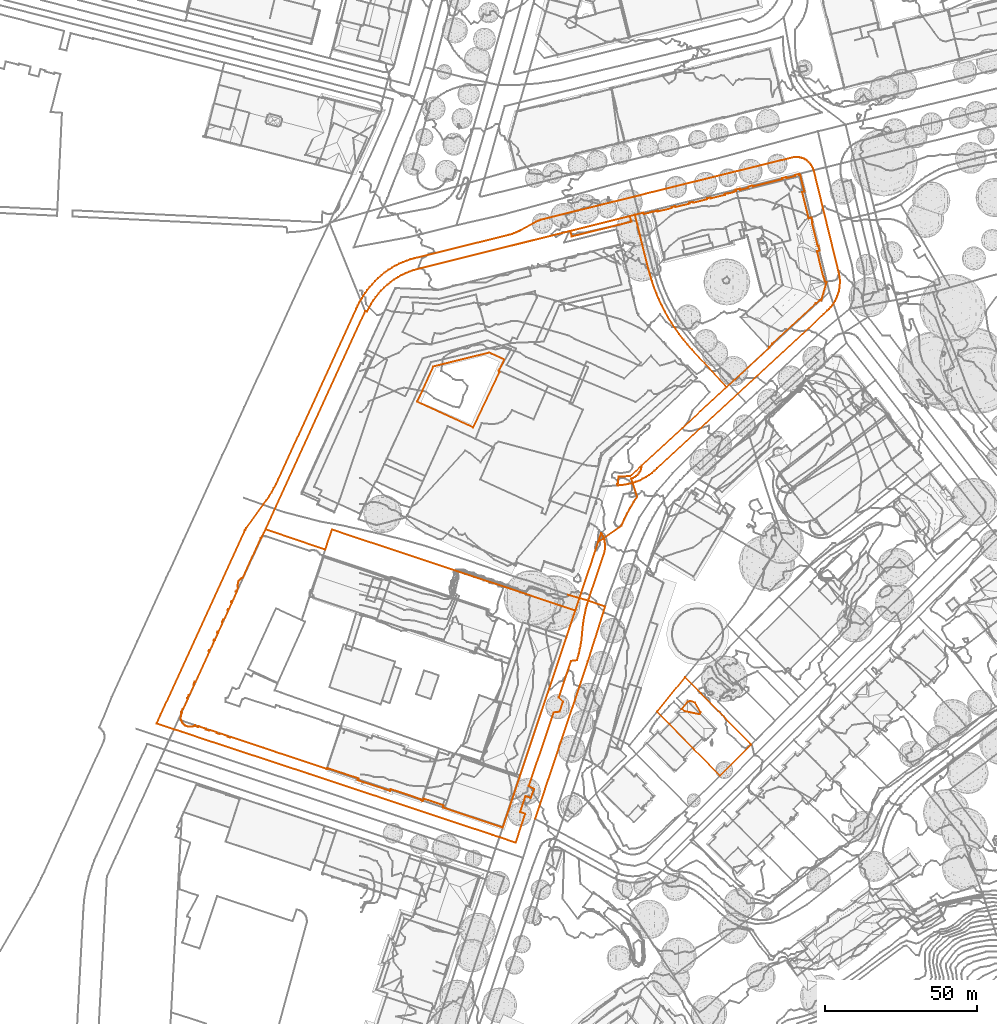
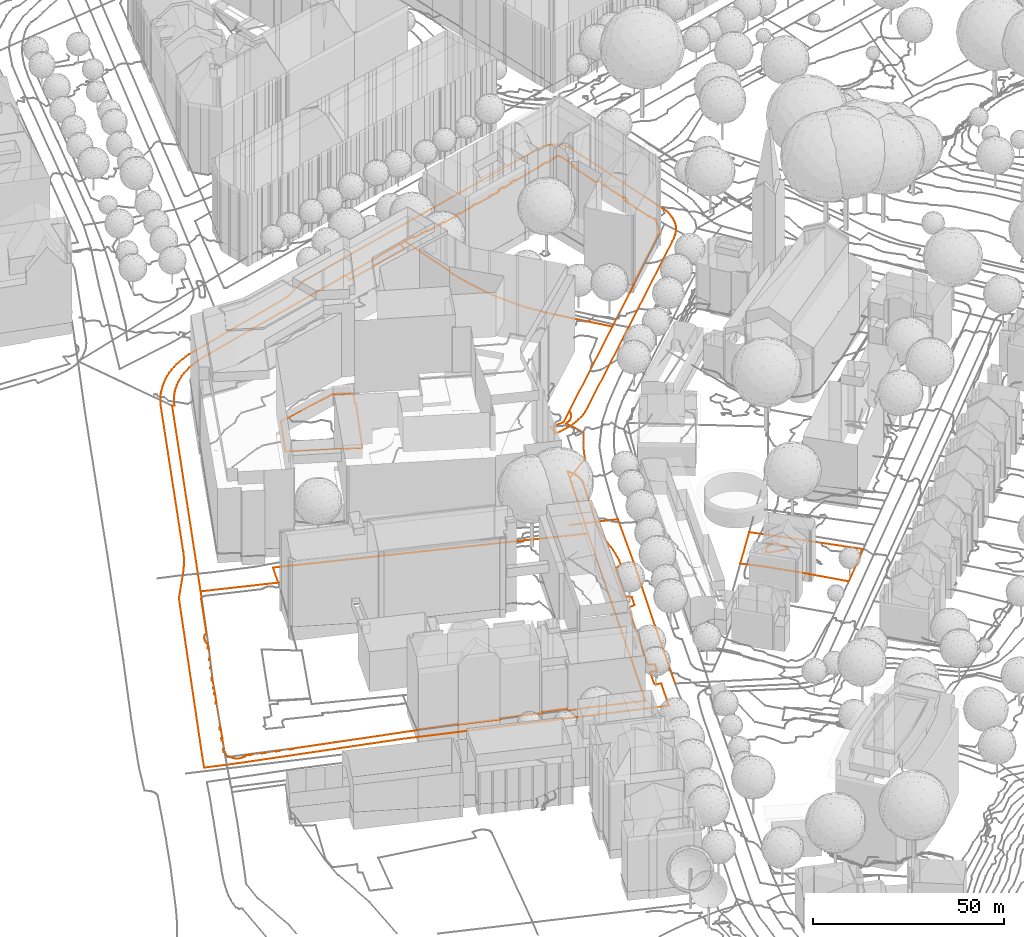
# Not in any storey, part 99 of 494: 7 proxies.
"""IFC2X3 model written with IfcOpenShell, lengths in metres."""

from ifc_helpers import new_model, entity, si_unit, frame, origin_with_axes, place, context, subcontext, project, element, save


model = new_model("IFC2X3")

# Units and contexts
model_context = context("Model", 3, precision=1e-05, world=origin_with_axes())
body_context = subcontext(model_context, "Body", "Model", "MODEL_VIEW")
ifc_project = project(units=[si_unit("AREAUNIT", "SQUARE_METRE"), si_unit("LENGTHUNIT", "METRE")], contexts=[model_context])

# Proxies
proxy_1_placement = place(None, frame((56.6267320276, 114.0017396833, 529.789), z_axis=(0.0, 0.0, 1.0), x_axis=(1.0, 0.0, 0.0)))
element("IfcBuildingElementProxy", 1, at=proxy_1_placement, Name="Road 81", ObjectType="NOTDEFINED", context=body_context, shape_type="GeometricCurveSet", body=[
    entity("IfcGeometricCurveSet", [entity("IfcPolyline", [entity("IfcCartesianPoint", [0.0, 0.0, 0.0]), entity("IfcCartesianPoint", [8.3699999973, 25.111999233, 0.407]), entity("IfcCartesianPoint", [17.3269999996, 51.6899984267, 1.305]), entity("IfcCartesianPoint", [22.9800000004, 69.7789978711, 2.135])])]),
])
proxy_2_placement = place(None, frame((67.1447320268, 187.6957374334, 532.061), z_axis=(0.0, 0.0, 1.0), x_axis=(1.0, 0.0, 0.0)))
element("IfcBuildingElementProxy", 2, at=proxy_2_placement, Name="Road 85", ObjectType="NOTDEFINED", context=body_context, shape_type="GeometricCurveSet", body=[
    entity("IfcGeometricCurveSet", [entity("IfcPolyline", [entity("IfcCartesianPoint", [0.0, 0.0, 0.0]), entity("IfcCartesianPoint", [6.8790000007, -1.9849999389, -0.152]), entity("IfcCartesianPoint", [12.4620000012, -3.914999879, -0.137])])]),
])
proxy_3_placement = place(None, frame((17.8997320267, 251.0267160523, 534.4437292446), z_axis=(0.0, 0.0, 1.0), x_axis=(1.0, 0.0, 0.0)))
element("IfcBuildingElementProxy", 3, at=proxy_3_placement, Name="Roads Outline 9", ObjectType="NOTDEFINED", context=body_context, shape_type="GeometricCurveSet", body=[
    entity("IfcGeometricCurveSet", [entity("IfcPolyline", [entity("IfcCartesianPoint", [0.0, 0.0, 0.0]), entity("IfcCartesianPoint", [5.2969999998, 11.594, 0.8061418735]), entity("IfcCartesianPoint", [23.5970000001, 16.155, 0.3098576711]), entity("IfcCartesianPoint", [28.594, 13.9060000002, 0.2033725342]), entity("IfcCartesianPoint", [27.125, 10.7010000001, -0.0943390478]), entity("IfcCartesianPoint", [27.0159999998, 10.7510000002, -0.0916174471]), entity("IfcCartesianPoint", [26.7659999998, 10.206, -0.110626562]), entity("IfcCartesianPoint", [26.9199999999, 10.135, -0.1106286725]), entity("IfcCartesianPoint", [26.9700000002, 10.0020000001, -0.1123598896]), entity("IfcCartesianPoint", [26.9500000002, 9.959, -0.1129406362]), entity("IfcCartesianPoint", [26.8999999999, 9.848, -0.1141976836]), entity("IfcCartesianPoint", [27.0150000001, 9.7950000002, -0.1156570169]), entity("IfcCartesianPoint", [18.3700000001, -8.3909999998, -0.1647673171]), entity("IfcCartesianPoint", [0.0, 0.0, 0.0])])]),
])
proxy_4_placement = place(None, frame((-67.6912679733, 145.3517160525, 527.4249481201), z_axis=(0.0, 0.0, 1.0), x_axis=(1.0, 0.0, 0.0)))
element("IfcBuildingElementProxy", 4, at=proxy_4_placement, Name="Roads Outline 10", ObjectType="NOTDEFINED", context=body_context, shape_type="GeometricCurveSet", body=[
    entity("IfcGeometricCurveSet", [entity("IfcPolyline", [entity("IfcCartesianPoint", [0.0, 0.0, 0.0]), entity("IfcCartesianPoint", [1.3199999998, 2.888, -0.2080340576]), entity("IfcCartesianPoint", [28.98, 63.314, 5.1346878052]), entity("IfcCartesianPoint", [29.0800000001, 63.547, 5.1362996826]), entity("IfcCartesianPoint", [29.1919999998, 63.7749999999, 5.1377330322]), entity("IfcCartesianPoint", [29.4440000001, 64.203, 5.1404237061]), entity("IfcCartesianPoint", [35.1090000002, 72.057, 5.4727700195]), entity("IfcCartesianPoint", [36.0279999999, 73.3149999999, 5.8187476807]), entity("IfcCartesianPoint", [36.9020000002, 74.605, 5.9544064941]), entity("IfcCartesianPoint", [37.7280000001, 75.926, 6.0923600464]), entity("IfcCartesianPoint", [38.5120000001, 77.287, 6.2344908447]), entity("IfcCartesianPoint", [39.2459999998, 78.676, 6.3505656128]), entity("IfcCartesianPoint", [39.9300000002, 80.0899999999, 6.4019411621]), entity("IfcCartesianPoint", [65.6069999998, 136.2489999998, 9.4472509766]), entity("IfcCartesianPoint", [66.0660000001, 137.237, 9.4255495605]), entity("IfcCartesianPoint", [66.5610000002, 138.209, 9.4437701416]), entity("IfcCartesianPoint", [67.091, 139.1609999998, 9.5007259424]), entity("IfcCartesianPoint", [67.466, 139.798, 9.5336197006]), entity("IfcCartesianPoint", [67.8560000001, 140.4249999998, 9.5609431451]), entity("IfcCartesianPoint", [68.5189999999, 141.4179999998, 9.6235914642]), entity("IfcCartesianPoint", [69.2209999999, 142.3829999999, 9.6727223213]), entity("IfcCartesianPoint", [69.9619999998, 143.3189999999, 9.758619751]), entity("IfcCartesianPoint", [70.7400000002, 144.2239999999, 9.8162144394]), entity("IfcCartesianPoint", [71.7170000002, 145.298, 9.9165192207]), entity("IfcCartesianPoint", [72.75, 146.3189999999, 10.0064893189]), entity("IfcCartesianPoint", [73.8360000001, 147.2819999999, 10.0571101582]), entity("IfcCartesianPoint", [74.9730000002, 148.1849999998, 10.1214653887]), entity("IfcCartesianPoint", [76.1570000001, 149.0259999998, 10.1744799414]), entity("IfcCartesianPoint", [77.304, 149.754, 10.2184897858]), entity("IfcCartesianPoint", [78.486, 150.422, 10.2771569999]), entity("IfcCartesianPoint", [79.7000000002, 151.031, 10.3132679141]), entity("IfcCartesianPoint", [80.9440000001, 151.5769999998, 10.3484464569]), entity("IfcCartesianPoint", [82.213, 152.0599999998, 10.4020685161]), entity("IfcCartesianPoint", [83.5049999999, 152.4789999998, 10.4397841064]), entity("IfcCartesianPoint", [84.8169999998, 152.8319999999, 10.4890566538]), entity("IfcCartesianPoint", [115.949, 160.568, 11.2608643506]), entity("IfcCartesianPoint", [116.7119999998, 160.7929999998, 11.282352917]), entity("IfcCartesianPoint", [117.463, 161.0519999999, 11.298443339]), entity("IfcCartesianPoint", [118.202, 161.3459999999, 11.3005697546]), entity("IfcCartesianPoint", [118.9300000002, 161.6749999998, 11.2897838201]), entity("IfcCartesianPoint", [119.642, 162.0359999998, 11.3221643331]), entity("IfcCartesianPoint", [123.8250000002, 164.3729999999, 11.4012335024]), entity("IfcCartesianPoint", [124.6129999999, 164.7999999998, 11.4377898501]), entity("IfcCartesianPoint", [125.4300000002, 165.166, 11.4407610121]), entity("IfcCartesianPoint", [126.3080000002, 165.4819999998, 11.4255050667]), entity("IfcCartesianPoint", [127.2080000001, 165.7279999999, 11.4200615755]), entity("IfcCartesianPoint", [157.0869999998, 173.125, 11.7847085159]), entity("IfcCartesianPoint", [208.7059999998, 185.906, 12.2898109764]), entity("IfcCartesianPoint", [209.3569999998, 186.027, 12.2816119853]), entity("IfcCartesianPoint", [210.017, 186.075, 12.2716592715]), entity("IfcCartesianPoint", [210.679, 186.0499999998, 12.2661109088]), entity("IfcCartesianPoint", [211.3339999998, 185.95, 12.2622229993]), entity("IfcCartesianPoint", [211.9730000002, 185.7779999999, 12.2609329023]), entity("IfcCartesianPoint", [212.5890000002, 185.5359999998, 12.2643888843]), entity("IfcCartesianPoint", [213.1749999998, 185.227, 12.2388592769]), entity("IfcCartesianPoint", [213.7089999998, 184.8639999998, 12.2177686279]), entity("IfcCartesianPoint", [214.2000000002, 184.4449999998, 12.2110118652]), entity("IfcCartesianPoint", [214.6430000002, 183.9749999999, 12.1675744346]), entity("IfcCartesianPoint", [215.0320000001, 183.46, 12.1370057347]), entity("IfcCartesianPoint", [215.3629999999, 182.906, 12.1216642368]), entity("IfcCartesianPoint", [215.6310000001, 182.3189999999, 12.0964372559]), entity("IfcCartesianPoint", [215.835, 181.706, 12.0427866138]), entity("IfcCartesianPoint", [224.0249999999, 148.2609999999, 10.5233550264]), entity("IfcCartesianPoint", [224.2149999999, 147.392, 10.5306896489]), entity("IfcCartesianPoint", [224.3450000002, 146.513, 10.5014225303]), entity("IfcCartesianPoint", [224.4139999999, 145.6259999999, 10.4770400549]), entity("IfcCartesianPoint", [224.4219999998, 144.737, 10.4468352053]), entity("IfcCartesianPoint", [224.3689999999, 143.8489999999, 10.4012084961]), entity("IfcCartesianPoint", [224.2549999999, 142.9669999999, 10.3453725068]), entity("IfcCartesianPoint", [224.0809999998, 142.095, 10.3045546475]), entity("IfcCartesianPoint", [223.841, 141.2219999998, 10.2810139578]), entity("IfcCartesianPoint", [223.5410000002, 140.3669999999, 10.2483413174]), entity("IfcCartesianPoint", [223.182, 139.5349999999, 10.1858411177]), entity("IfcCartesianPoint", [222.7659999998, 138.7309999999, 10.1429102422]), entity("IfcCartesianPoint", [222.2940000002, 137.9579999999, 10.0963570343]), entity("IfcCartesianPoint", [221.8450000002, 137.3199999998, 10.070381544]), entity("IfcCartesianPoint", [221.3569999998, 136.709, 10.0314658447]), entity("IfcCartesianPoint", [220.8339999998, 136.1299999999, 9.9862237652]), entity("IfcCartesianPoint", [220.2770000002, 135.5829999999, 9.9456068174]), entity("IfcCartesianPoint", [219.1400000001, 134.504, 9.8586848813]), entity("IfcCartesianPoint", [164.4470000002, 83.9139999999, 6.8842999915]), entity("IfcCartesianPoint", [163.5800000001, 83.101, 6.8217709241]), entity("IfcCartesianPoint", [162.6669999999, 82.341, 6.7952735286]), entity("IfcCartesianPoint", [161.71, 81.6369999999, 6.774864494]), entity("IfcCartesianPoint", [160.7119999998, 80.9909999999, 6.7314496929]), entity("IfcCartesianPoint", [159.6779999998, 80.406, 6.6890435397]), entity("IfcCartesianPoint", [158.611, 79.8839999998, 6.6683142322]), entity("IfcCartesianPoint", [157.5150000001, 79.426, 6.6583448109]), entity("IfcCartesianPoint", [156.3930000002, 79.034, 6.6084774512]), entity("IfcCartesianPoint", [155.1949999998, 78.7449999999, 6.5510893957]), entity("IfcCartesianPoint", [153.9849999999, 78.513, 6.5144450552]), entity("IfcCartesianPoint", [152.7650000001, 78.3369999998, 6.4355364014]), entity("IfcCartesianPoint", [151.5380000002, 78.219, 6.4139226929]), entity("IfcCartesianPoint", [151.4610000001, 78.2139999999, 6.4141913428]), entity("IfcCartesianPoint", [151.3849999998, 78.2079999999, 6.414349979]), entity("IfcCartesianPoint", [151.3450000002, 78.2049999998, 6.414423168]), entity("IfcCartesianPoint", [151.3100000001, 78.652, 6.4229099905]), entity("IfcCartesianPoint", [151.4419999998, 78.7949999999, 6.4209424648]), entity("IfcCartesianPoint", [151.5279999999, 78.97, 6.4194706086]), entity("IfcCartesianPoint", [151.5600000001, 79.162, 6.418835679]), entity("IfcCartesianPoint", [151.7000000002, 81.1309999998, 6.5857669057]), entity("IfcCartesianPoint", [155.5440000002, 81.2339999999, 6.6736287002]), entity("IfcCartesianPoint", [159.3330000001, 84.7559999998, 6.9124994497]), entity("IfcCartesianPoint", [187.2349999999, 110.541, 8.3438452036]), entity("IfcCartesianPoint", [189.46, 112.5959999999, 8.520529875]), entity("IfcCartesianPoint", [201.2590000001, 123.503, 9.1507131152]), entity("IfcCartesianPoint", [201.122, 123.652, 9.160181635]), entity("IfcCartesianPoint", [202.25, 124.6869999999, 9.2265585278]), entity("IfcCartesianPoint", [202.182, 124.76, 9.2310877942]), entity("IfcCartesianPoint", [216.514, 138.044, 10.0416054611]), entity("IfcCartesianPoint", [216.5819999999, 137.9709999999, 10.0351867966]), entity("IfcCartesianPoint", [217.7179999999, 139.0209999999, 10.0988297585]), entity("IfcCartesianPoint", [217.9670000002, 138.9469999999, 10.0947136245]), entity("IfcCartesianPoint", [218.2370000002, 138.8669999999, 10.1007628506]), entity("IfcCartesianPoint", [218.3709999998, 139.3199999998, 10.1315998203]), entity("IfcCartesianPoint", [220.0389999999, 144.963, 10.5338691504]), entity("IfcCartesianPoint", [219.4870000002, 145.2079999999, 10.562672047]), entity("IfcCartesianPoint", [219.142, 146.5869999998, 10.6485200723]), entity("IfcCartesianPoint", [219.0249999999, 146.5559999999, 10.6520296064]), entity("IfcCartesianPoint", [216.9070000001, 155.129, 11.0879605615]), entity("IfcCartesianPoint", [217.673, 155.318, 11.058412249]), entity("IfcCartesianPoint", [217.77, 155.3419999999, 11.0544535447]), entity("IfcCartesianPoint", [217.3849999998, 156.9039999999, 11.1443709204]), entity("IfcCartesianPoint", [217.2880000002, 156.8799999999, 11.1445516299]), entity("IfcCartesianPoint", [217.1320000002, 156.8419999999, 11.1451369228]), entity("IfcCartesianPoint", [215.2370000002, 164.513, 11.4516099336]), entity("IfcCartesianPoint", [215.392, 164.551, 11.4595112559]), entity("IfcCartesianPoint", [215.48, 164.5729999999, 11.4639176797]), entity("IfcCartesianPoint", [215.0950000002, 166.1299999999, 11.5391629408]), entity("IfcCartesianPoint", [215.0079999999, 166.1089999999, 11.5384063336]), entity("IfcCartesianPoint", [214.176, 165.9029999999, 11.5170725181]), entity("IfcCartesianPoint", [212.0359999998, 174.567, 12.028749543]), entity("IfcCartesianPoint", [212.764, 174.747, 11.9984218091]), entity("IfcCartesianPoint", [211.3900000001, 180.3019999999, 12.2203479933]), entity("IfcCartesianPoint", [211.0959999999, 180.196, 12.2193510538]), entity("IfcCartesianPoint", [211.0159999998, 180.5159999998, 12.2295227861]), entity("IfcCartesianPoint", [209.6839999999, 180.1849999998, 12.2097248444]), entity("IfcCartesianPoint", [209.764, 179.865, 12.1970250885]), entity("IfcCartesianPoint", [206.9020000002, 179.152, 12.2304413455]), entity("IfcCartesianPoint", [206.8220000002, 179.4719999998, 12.2356286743]), entity("IfcCartesianPoint", [205.483, 179.1369999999, 12.2431404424]), entity("IfcCartesianPoint", [205.5619999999, 178.818, 12.2292600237]), entity("IfcCartesianPoint", [195.8360000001, 176.395, 12.0196618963]), entity("IfcCartesianPoint", [195.7599999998, 176.716, 12.0636403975]), entity("IfcCartesianPoint", [194.4139999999, 176.3809999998, 12.0366424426]), entity("IfcCartesianPoint", [194.5109999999, 175.993, 11.9848913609]), entity("IfcCartesianPoint", [191.6690000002, 175.284, 11.8727587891]), entity("IfcCartesianPoint", [191.5720000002, 175.672, 11.921329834]), entity("IfcCartesianPoint", [190.213, 175.334, 11.8610841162]), entity("IfcCartesianPoint", [190.3309999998, 174.8589999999, 11.8016062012]), entity("IfcCartesianPoint", [189.5159999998, 174.6569999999, 11.7808727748]), entity("IfcCartesianPoint", [189.5520000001, 174.5119999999, 11.7614297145]), entity("IfcCartesianPoint", [187.784, 174.0719999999, 11.7751818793]), entity("IfcCartesianPoint", [187.7480000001, 174.2179999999, 11.7946209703]), entity("IfcCartesianPoint", [186.602, 173.933, 11.8109434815]), entity("IfcCartesianPoint", [186.6740000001, 173.642, 11.7724528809]), entity("IfcCartesianPoint", [182.0210000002, 172.4879999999, 11.8542769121]), entity("IfcCartesianPoint", [181.9479999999, 172.781, 11.893157]), entity("IfcCartesianPoint", [180.7859999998, 172.4939999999, 11.8610445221]), entity("IfcCartesianPoint", [180.8590000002, 172.2, 11.822419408]), entity("IfcCartesianPoint", [176.2039999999, 171.0449999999, 11.7236728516]), entity("IfcCartesianPoint", [176.1320000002, 171.3369999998, 11.7620677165]), entity("IfcCartesianPoint", [174.9679999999, 171.047, 11.7446042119]), entity("IfcCartesianPoint", [175.04, 170.7559999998, 11.7034841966]), entity("IfcCartesianPoint", [170.3829999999, 169.601, 11.7016027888]), entity("IfcCartesianPoint", [170.3119999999, 169.888, 11.7368377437]), entity("IfcCartesianPoint", [169.1469999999, 169.601, 11.7626066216]), entity("IfcCartesianPoint", [169.219, 169.3119999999, 11.7259874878]), entity("IfcCartesianPoint", [164.5589999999, 168.156, 11.8850723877]), entity("IfcCartesianPoint", [164.4870000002, 168.4469999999, 11.8903916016]), entity("IfcCartesianPoint", [162.9440000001, 168.064, 11.8732413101]), entity("IfcCartesianPoint", [160.102, 167.3599999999, 11.9661905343]), entity("IfcCartesianPoint", [159.9909999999, 167.8049999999, 11.9655054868]), entity("IfcCartesianPoint", [157.102, 167.085, 11.932702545]), entity("IfcCartesianPoint", [155.4679999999, 166.6779999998, 11.8506757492]), entity("IfcCartesianPoint", [155.9309999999, 164.824, 11.1555864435]), entity("IfcCartesianPoint", [150.8250000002, 163.558, 11.2347489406]), entity("IfcCartesianPoint", [136.3879999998, 159.9809999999, 11.1586470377]), entity("IfcCartesianPoint", [135.9330000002, 161.8059999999, 11.6267453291]), entity("IfcCartesianPoint", [135.5750000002, 161.7169999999, 11.595240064]), entity("IfcCartesianPoint", [85.7540000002, 149.294, 10.5392359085]), entity("IfcCartesianPoint", [84.4029999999, 148.9079999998, 10.5027372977]), entity("IfcCartesianPoint", [83.0759999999, 148.4469999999, 10.4392336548]), entity("IfcCartesianPoint", [81.7770000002, 147.912, 10.3965655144]), entity("IfcCartesianPoint", [80.5099999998, 147.304, 10.3707654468]), entity("IfcCartesianPoint", [79.2790000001, 146.6269999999, 10.3025747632]), entity("IfcCartesianPoint", [78.088, 145.882, 10.2738128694]), entity("IfcCartesianPoint", [76.9410000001, 145.0699999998, 10.2173986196]), entity("IfcCartesianPoint", [75.841, 144.196, 10.1048848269]), entity("IfcCartesianPoint", [74.7919999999, 143.2609999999, 10.1018456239]), entity("IfcCartesianPoint", [73.7969999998, 142.2689999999, 10.0175118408]), entity("IfcCartesianPoint", [72.8599999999, 141.2219999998, 9.9617357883]), entity("IfcCartesianPoint", [71.983, 140.125, 9.8738898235]), entity("IfcCartesianPoint", [71.1680000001, 138.98, 9.7891685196]), entity("IfcCartesianPoint", [70.4199999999, 137.791, 9.6902685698]), entity("IfcCartesianPoint", [69.7390000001, 136.561, 9.5378683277]), entity("IfcCartesianPoint", [69.1290000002, 135.2959999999, 9.4509179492]), entity("IfcCartesianPoint", [68.5600000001, 135.5429999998, 9.4637361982]), entity("IfcCartesianPoint", [35.7510000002, 63.7709999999, 5.1377078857]), entity("IfcCartesianPoint", [34.648, 61.3599999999, 5.0694261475]), entity("IfcCartesianPoint", [34.4360000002, 61.162, 5.063612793]), entity("IfcCartesianPoint", [34.2790000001, 60.9169999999, 5.0565247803]), entity("IfcCartesianPoint", [34.2519999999, 60.929, 5.0568719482]), entity("IfcCartesianPoint", [28.3500000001, 47.9649999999, 4.0283361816]), entity("IfcCartesianPoint", [27.9449999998, 47.7619999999, 3.9721469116]), entity("IfcCartesianPoint", [27.5800000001, 47.493, 3.897689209]), entity("IfcCartesianPoint", [27.2659999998, 47.1669999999, 3.8058863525]), entity("IfcCartesianPoint", [27.0120000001, 46.7919999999, 3.6982203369]), entity("IfcCartesianPoint", [26.824, 46.3799999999, 3.5799312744]), entity("IfcCartesianPoint", [26.7080000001, 45.942, 3.4569385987]), entity("IfcCartesianPoint", [26.6680000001, 45.49, 3.330475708]), entity("IfcCartesianPoint", [26.7050000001, 45.0389999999, 3.2009771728]), entity("IfcCartesianPoint", [26.8169999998, 44.5999999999, 3.0729533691]), entity("IfcCartesianPoint", [26.3999999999, 43.6839999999, 2.8050100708]), entity("IfcCartesianPoint", [26.2629999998, 43.747, 2.8234632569]), entity("IfcCartesianPoint", [26.0410000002, 43.2729999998, 2.6846081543]), entity("IfcCartesianPoint", [26.3149999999, 43.1479999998, 2.6479489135]), entity("IfcCartesianPoint", [24.9539999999, 40.173, 1.7747946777]), entity("IfcCartesianPoint", [24.682, 40.297, 1.811569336]), entity("IfcCartesianPoint", [24.483, 39.8739999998, 1.6861203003]), entity("IfcCartesianPoint", [24.7590000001, 39.7479999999, 1.6487525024]), entity("IfcCartesianPoint", [23.7230000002, 37.4849999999, 0.9886968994]), entity("IfcCartesianPoint", [23.4399999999, 37.6139999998, 1.0261749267]), entity("IfcCartesianPoint", [23.2590000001, 37.203, 0.9067681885]), entity("IfcCartesianPoint", [23.537, 37.0769999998, 0.8701617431]), entity("IfcCartesianPoint", [22.173, 34.0959999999, 0.1540565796]), entity("IfcCartesianPoint", [21.9049999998, 34.2179999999, 0.1575488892]), entity("IfcCartesianPoint", [21.6880000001, 33.7309999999, 0.1436082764]), entity("IfcCartesianPoint", [21.4900000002, 33.2859999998, 0.130440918]), entity("IfcCartesianPoint", [21.7480000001, 33.1679999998, 0.1255290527]), entity("IfcCartesianPoint", [20.3790000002, 30.1739999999, 0.0898272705]), entity("IfcCartesianPoint", [20.1200000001, 30.2929999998, 0.086166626]), entity("IfcCartesianPoint", [19.9300000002, 29.8909999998, 0.0985328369]), entity("IfcCartesianPoint", [20.1940000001, 29.77, 0.1022550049]), entity("IfcCartesianPoint", [19.156, 27.5019999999, 0.3770836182]), entity("IfcCartesianPoint", [18.898, 27.6199999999, 0.3506949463]), entity("IfcCartesianPoint", [18.7089999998, 27.2119999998, 0.4149650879]), entity("IfcCartesianPoint", [18.969, 27.0929999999, 0.4115804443]), entity("IfcCartesianPoint", [17.5980000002, 24.094, 0.0449752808]), entity("IfcCartesianPoint", [17.341, 24.2109999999, 0.0535374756]), entity("IfcCartesianPoint", [17.125, 23.7349999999, 0.0187032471]), entity("IfcCartesianPoint", [17.3799999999, 23.618, 0.0101410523]), entity("IfcCartesianPoint", [12.8250000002, 13.659, 0.0802496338]), entity("IfcCartesianPoint", [12.5610000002, 13.78, 0.0782113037]), entity("IfcCartesianPoint", [12.3289999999, 13.29, 0.0863754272]), entity("IfcCartesianPoint", [12.1209999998, 12.852, 0.0923904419]), entity("IfcCartesianPoint", [12.398, 12.726, 0.0941207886]), entity("IfcCartesianPoint", [10.7779999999, 9.1839999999, 0.1015988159]), entity("IfcCartesianPoint", [10.5299999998, 9.297, 0.1015505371]), entity("IfcCartesianPoint", [10.077, 8.3059999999, 0.1012352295]), entity("IfcCartesianPoint", [10.3250000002, 8.193, 0.0948624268]), entity("IfcCartesianPoint", [8.7400000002, 4.727, -0.075805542]), entity("IfcCartesianPoint", [8.4920000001, 4.8399999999, -0.0682602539]), entity("IfcCartesianPoint", [8.0419999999, 3.858, -0.1674547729]), entity("IfcCartesianPoint", [8.29, 3.7449999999, -0.1832419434]), entity("IfcCartesianPoint", [8.4789999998, 3.6579999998, -0.1953966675]), entity("IfcCartesianPoint", [8.2609999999, 3.2879999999, -0.2402606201]), entity("IfcCartesianPoint", [8.0970000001, 2.8899999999, -0.2081951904]), entity("IfcCartesianPoint", [7.9929999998, 2.473, -0.174598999]), entity("IfcCartesianPoint", [7.949, 2.0449999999, -0.1181751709]), entity("IfcCartesianPoint", [7.966, 1.615, -0.0490980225]), entity("IfcCartesianPoint", [8.0449999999, 1.192, -0.0004852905]), entity("IfcCartesianPoint", [8.1830000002, 0.7849999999, 0.0029179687]), entity("IfcCartesianPoint", [8.4070000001, 0.3539999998, 0.0065219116]), entity("IfcCartesianPoint", [8.6979999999, -0.0350000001, -0.0007476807]), entity("IfcCartesianPoint", [9.0469999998, -0.372, -0.0079467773]), entity("IfcCartesianPoint", [9.446, -0.648, -0.0138427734]), entity("IfcCartesianPoint", [9.8849999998, -0.8560000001, -0.0063339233]), entity("IfcCartesianPoint", [10.3509999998, -0.9910000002, 2.4414e-06]), entity("IfcCartesianPoint", [10.8330000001, -1.0490000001, 0.0027247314]), entity("IfcCartesianPoint", [11.318, -1.0290000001, 0.0017860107]), entity("IfcCartesianPoint", [11.7930000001, -0.9300000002, -0.0028606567]), entity("IfcCartesianPoint", [12.247, -0.7560000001, -0.0110275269]), entity("IfcCartesianPoint", [12.6660000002, -0.5120000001, -0.0109375]), entity("IfcCartesianPoint", [12.7420000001, -0.537, -0.0114715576]), entity("IfcCartesianPoint", [12.6499999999, -0.8120000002, -0.0083991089]), entity("IfcCartesianPoint", [13.6749999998, -1.1530000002, 0.0076060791]), entity("IfcCartesianPoint", [13.7680000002, -0.878, -0.0053013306]), entity("IfcCartesianPoint", [16.273, -1.7120000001, 0.0339700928]), entity("IfcCartesianPoint", [16.1809999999, -1.987, 0.0480020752]), entity("IfcCartesianPoint", [17.2059999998, -2.328, 0.0654017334]), entity("IfcCartesianPoint", [17.298, -2.0520000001, 0.0513187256]), entity("IfcCartesianPoint", [19.8220000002, -2.892, 0.1035297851]), entity("IfcCartesianPoint", [19.73, -3.1670000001, 0.1297474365]), entity("IfcCartesianPoint", [20.764, -3.5110000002, 0.162543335]), entity("IfcCartesianPoint", [20.8560000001, -3.236, 0.1363256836]), entity("IfcCartesianPoint", [23.3509999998, -4.0660000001, 0.2213534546]), entity("IfcCartesianPoint", [23.2590000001, -4.341, 0.2517840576]), entity("IfcCartesianPoint", [24.2170000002, -4.6600000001, 0.2870835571]), entity("IfcCartesianPoint", [24.3089999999, -4.385, 0.2566529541]), entity("IfcCartesianPoint", [34.9399999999, -7.9230000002, 0.6541118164]), entity("IfcCartesianPoint", [55.8319999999, -14.8700000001, 1.4243275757]), entity("IfcCartesianPoint", [56.1499999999, -14.976, 1.436600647]), entity("IfcCartesianPoint", [56.2519999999, -14.6840000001, 1.4027918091]), entity("IfcCartesianPoint", [66.2829999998, -18.0210000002, 1.7891009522]), entity("IfcCartesianPoint", [66.094, -18.5900000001, 1.8549818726]), entity("IfcCartesianPoint", [76.6800000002, -22.112, 1.9598271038]), entity("IfcCartesianPoint", [76.8689999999, -21.5420000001, 1.9469676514]), entity("IfcCartesianPoint", [86.9369999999, -24.8910000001, 2.0656298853]), entity("IfcCartesianPoint", [86.8399999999, -25.1850000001, 2.0549752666]), entity("IfcCartesianPoint", [87.1439999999, -25.2860000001, 2.063510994]), entity("IfcCartesianPoint", [87.2770000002, -25.3300000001, 2.0684170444]), entity("IfcCartesianPoint", [87.4569999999, -25.3900000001, 2.0755545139]), entity("IfcCartesianPoint", [87.696, -24.6680000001, 2.0904516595]), entity("IfcCartesianPoint", [94.2710000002, -26.8570000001, 2.2286066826]), entity("IfcCartesianPoint", [94.0329999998, -27.5790000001, 2.1614702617]), entity("IfcCartesianPoint", [113.696, -34.1230000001, 2.2453099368]), entity("IfcCartesianPoint", [119.3870000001, -17.0790000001, 2.8536873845]), entity("IfcCartesianPoint", [134.6000000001, 28.4379999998, 3.86813911]), entity("IfcCartesianPoint", [137.503, 37.1229999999, 4.1786224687]), entity("IfcCartesianPoint", [145.0329999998, 59.632, 5.5799902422]), entity("IfcCartesianPoint", [146.034, 62.6259999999, 5.5655987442]), entity("IfcCartesianPoint", [146.3539999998, 62.0799999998, 5.5626339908]), entity("IfcCartesianPoint", [146.6310000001, 61.5109999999, 5.5568430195]), entity("IfcCartesianPoint", [146.8650000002, 60.922, 5.5518937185]), entity("IfcCartesianPoint", [147.0690000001, 60.2519999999, 5.5585459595]), entity("IfcCartesianPoint", [147.2140000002, 59.567, 5.5545223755]), entity("IfcCartesianPoint", [147.3020000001, 58.808, 5.5250959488]), entity("IfcCartesianPoint", [147.3190000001, 58.044, 5.4822234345]), entity("IfcCartesianPoint", [147.2629999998, 57.2819999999, 5.4468234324]), entity("IfcCartesianPoint", [147.1370000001, 56.5279999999, 5.4309997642]), entity("IfcCartesianPoint", [146.9399999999, 55.79, 5.398373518]), entity("IfcCartesianPoint", [141.9199999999, 40.8489999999, 4.5257516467]), entity("IfcCartesianPoint", [141.3960000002, 39.156, 4.3576751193]), entity("IfcCartesianPoint", [140.9419999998, 37.443, 4.2937663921]), entity("IfcCartesianPoint", [140.5600000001, 35.713, 4.2514407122]), entity("IfcCartesianPoint", [140.2590000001, 34.031, 4.1914996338]), entity("IfcCartesianPoint", [140.0260000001, 32.338, 4.1315312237]), entity("IfcCartesianPoint", [139.8599999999, 30.6369999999, 4.0769773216]), entity("IfcCartesianPoint", [139.727, 29.04, 4.0401495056]), entity("IfcCartesianPoint", [139.537, 27.449, 3.9737678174]), entity("IfcCartesianPoint", [139.301, 25.922, 3.9213971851]), entity("IfcCartesianPoint", [139.014, 24.4029999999, 3.8761164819]), entity("IfcCartesianPoint", [138.6749999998, 22.895, 3.8407239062]), entity("IfcCartesianPoint", [138.0729999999, 20.841, 3.7760707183]), entity("IfcCartesianPoint", [136.0809999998, 20.548, 3.686087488]), entity("IfcCartesianPoint", [132.0780000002, 8.6169999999, 3.2707199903]), entity("IfcCartesianPoint", [133.4720000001, 7.1949999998, 3.3456655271]), entity("IfcCartesianPoint", [132.355, 3.9029999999, 3.230603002]), entity("IfcCartesianPoint", [130.406, 3.6669999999, 3.2417564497]), entity("IfcCartesianPoint", [122.2450000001, -20.5890000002, 2.5521132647]), entity("IfcCartesianPoint", [123.9449999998, -21.4620000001, 2.6041659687]), entity("IfcCartesianPoint", [122.8689999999, -24.4110000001, 2.5248577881]), entity("IfcCartesianPoint", [121.1209999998, -23.811, 2.5987880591]), entity("IfcCartesianPoint", [119.3810000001, -29.0380000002, 2.4384621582]), entity("IfcCartesianPoint", [121.1140000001, -29.6370000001, 2.4384377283]), entity("IfcCartesianPoint", [117.949, -39.112, 2.2323994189]), entity("IfcCartesianPoint", [112.6260000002, -37.341, 2.1813179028]), entity("IfcCartesianPoint", [110.3289999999, -36.577, 2.1452527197]), entity("IfcCartesianPoint", [50.2590000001, -16.5890000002, 1.6233043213]), entity("IfcCartesianPoint", [8.4909999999, -2.8030000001, 0.0950447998]), entity("IfcCartesianPoint", [5.7220000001, -1.889, 0.0430015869]), entity("IfcCartesianPoint", [0.0, 0.0, 0.0])])]),
])
proxy_5_placement = place(None, frame((-31.9402679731, 209.1227160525, 532.5626560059), z_axis=(0.0, 0.0, 1.0), x_axis=(1.0, 0.0, 0.0)))
element("IfcBuildingElementProxy", 5, at=proxy_5_placement, Name="Cadastre 20", ObjectType="NOTDEFINED", context=body_context, shape_type="GeometricCurveSet", body=[
    entity("IfcGeometricCurveSet", [entity("IfcPolyline", [entity("IfcCartesianPoint", [0.0, 0.0, 0.0]), entity("IfcCartesianPoint", [32.8089999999, 71.7719999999, 4.3260283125]), entity("IfcCartesianPoint", [33.378, 71.5249999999, 4.3132100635]), entity("IfcCartesianPoint", [33.9879999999, 72.79, 4.4001604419]), entity("IfcCartesianPoint", [34.6689999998, 74.02, 4.5525606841]), entity("IfcCartesianPoint", [35.4169999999, 75.209, 4.6514606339]), entity("IfcCartesianPoint", [36.2319999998, 76.3540000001, 4.7361819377]), entity("IfcCartesianPoint", [37.1089999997, 77.4509999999, 4.8240279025]), entity("IfcCartesianPoint", [38.0459999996, 78.4979999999, 4.8798039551]), entity("IfcCartesianPoint", [39.0409999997, 79.49, 4.9641377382]), entity("IfcCartesianPoint", [40.0899999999, 80.425, 4.9671769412]), entity("IfcCartesianPoint", [41.1899999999, 81.2989999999, 5.0796907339]), entity("IfcCartesianPoint", [42.3369999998, 82.111, 5.1361049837]), entity("IfcCartesianPoint", [43.5279999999, 82.8559999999, 5.1648668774]), entity("IfcCartesianPoint", [44.7589999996, 83.5330000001, 5.233057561]), entity("IfcCartesianPoint", [46.0260000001, 84.1410000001, 5.2588576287]), entity("IfcCartesianPoint", [47.3249999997, 84.676, 5.301525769]), entity("IfcCartesianPoint", [48.6519999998, 85.1369999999, 5.365029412]), entity("IfcCartesianPoint", [50.003, 85.523, 5.4015280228]), entity("IfcCartesianPoint", [121.3509999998, 103.314, 6.7949946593]), entity("IfcCartesianPoint", [125.7289999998, 85.7379999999, 5.5020342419]), entity("IfcCartesianPoint", [126.2949999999, 83.6259999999, 5.3640962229]), entity("IfcCartesianPoint", [126.9359999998, 81.5349999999, 5.3456884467]), entity("IfcCartesianPoint", [127.6510000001, 79.469, 5.2636671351]), entity("IfcCartesianPoint", [128.4409999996, 77.429, 5.1528542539]), entity("IfcCartesianPoint", [129.3029999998, 75.4199999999, 4.9462342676]), entity("IfcCartesianPoint", [130.2369999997, 73.442, 4.8442534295]), entity("IfcCartesianPoint", [131.2409999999, 71.5, 4.6616690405]), entity("IfcCartesianPoint", [132.3139999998, 69.595, 4.6152876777]), entity("IfcCartesianPoint", [133.4539999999, 67.7290000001, 4.4914825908]), entity("IfcCartesianPoint", [134.6609999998, 65.906, 4.2260550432]), entity("IfcCartesianPoint", [135.932, 64.1269999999, 4.1314208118]), entity("IfcCartesianPoint", [137.2649999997, 62.395, 4.0915792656]), entity("IfcCartesianPoint", [138.6599999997, 60.7109999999, 3.9946436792]), entity("IfcCartesianPoint", [140.1149999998, 59.0789999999, 3.8549652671]), entity("IfcCartesianPoint", [151.4839999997, 46.77, 3.2061373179]), entity("IfcCartesianPoint", [123.5819999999, 20.9849999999, 1.774791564]), entity("IfcCartesianPoint", [123.5129999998, 20.4080000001, 1.7312735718]), entity("IfcCartesianPoint", [123.3729999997, 19.845, 1.7088159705]), entity("IfcCartesianPoint", [123.1639999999, 19.3030000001, 1.69483315]), entity("IfcCartesianPoint", [122.8909999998, 18.791, 1.7018596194]), entity("IfcCartesianPoint", [122.5559999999, 18.3159999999, 1.673972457]), entity("IfcCartesianPoint", [122.165, 17.8859999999, 1.639748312]), entity("IfcCartesianPoint", [121.7249999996, 17.5079999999, 1.6010590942]), entity("IfcCartesianPoint", [121.2409999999, 17.1869999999, 1.5600567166]), entity("IfcCartesianPoint", [120.7209999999, 16.929, 1.5255376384]), entity("IfcCartesianPoint", [120.173, 16.736, 1.4984212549]), entity("IfcCartesianPoint", [122.0579999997, 10.804, 1.3674354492]), entity("IfcCartesianPoint", [120.8989999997, 8.959, 1.2667618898]), entity("IfcCartesianPoint", [119.8029999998, 7.077, 1.1723711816]), entity("IfcCartesianPoint", [118.7709999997, 5.1580000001, 1.0717402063]), entity("IfcCartesianPoint", [117.8019999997, 3.2069999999, 0.9603943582]), entity("IfcCartesianPoint", [116.8999999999, 1.2239999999, 0.8546313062]), entity("IfcCartesianPoint", [109.2819999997, -4.139, 0.4422823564]), entity("IfcCartesianPoint", [101.7519999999, -26.648, -0.959085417]), entity("IfcCartesianPoint", [21.8319999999, -0.05, -0.0003143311]), entity("IfcCartesianPoint", [19.6549999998, -6.615, -0.0689628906]), entity("IfcCartesianPoint", [0.0, 0.0, 0.0])])]),
])
proxy_6_placement = place(None, frame((96.6947320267, 149.3327160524, 532.6432958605), z_axis=(0.0, 0.0, 1.0), x_axis=(1.0, 0.0, 0.0)))
element("IfcBuildingElementProxy", 6, at=proxy_6_placement, Name="Cadastre 99", ObjectType="NOTDEFINED", context=body_context, shape_type="GeometricCurveSet", body=[
    entity("IfcGeometricCurveSet", [entity("IfcPolyline", [entity("IfcCartesianPoint", [0.0, 0.0, 0.0]), entity("IfcCartesianPoint", [9.2200000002, 11.3230000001, -0.0210373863]), entity("IfcCartesianPoint", [30.9449999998, -10.807, 0.3610688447]), entity("IfcCartesianPoint", [20.656, -21.03, -0.1336384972]), entity("IfcCartesianPoint", [11.912, -12.1270000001, 0.2428000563]), entity("IfcCartesianPoint", [4.0920000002, -4.166, 0.283240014]), entity("IfcCartesianPoint", [0.0, 0.0, 0.0])])]),
])
proxy_7_placement = place(None, frame((104.8084620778, 150.1707160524, 533.0), z_axis=(0.0, 0.0, 1.0), x_axis=(1.0, 0.0, 0.0)))
element("IfcBuildingElementProxy", 7, at=proxy_7_placement, Name="Contour Line 533.0 m", ObjectType="NOTDEFINED", context=body_context, shape_type="GeometricCurveSet", body=[
    entity("IfcGeometricCurveSet", [entity("IfcPolyline", [entity("IfcCartesianPoint", [6.1345441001, -1.0, 0.0]), entity("IfcCartesianPoint", [5.8692699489, -1.7537091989, 0.0]), entity("IfcCartesianPoint", [0.8692699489, -0.759643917, 0.0]), entity("IfcCartesianPoint", [0.0, 0.0, 0.0]), entity("IfcCartesianPoint", [1.8692699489, 2.3717472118, 0.0]), entity("IfcCartesianPoint", [2.8692699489, 2.6266478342, 0.0]), entity("IfcCartesianPoint", [4.3286113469, 2.0, 0.0]), entity("IfcCartesianPoint", [6.1345441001, -1.0, 0.0])])]),
])

save(model, "model.ifc")
